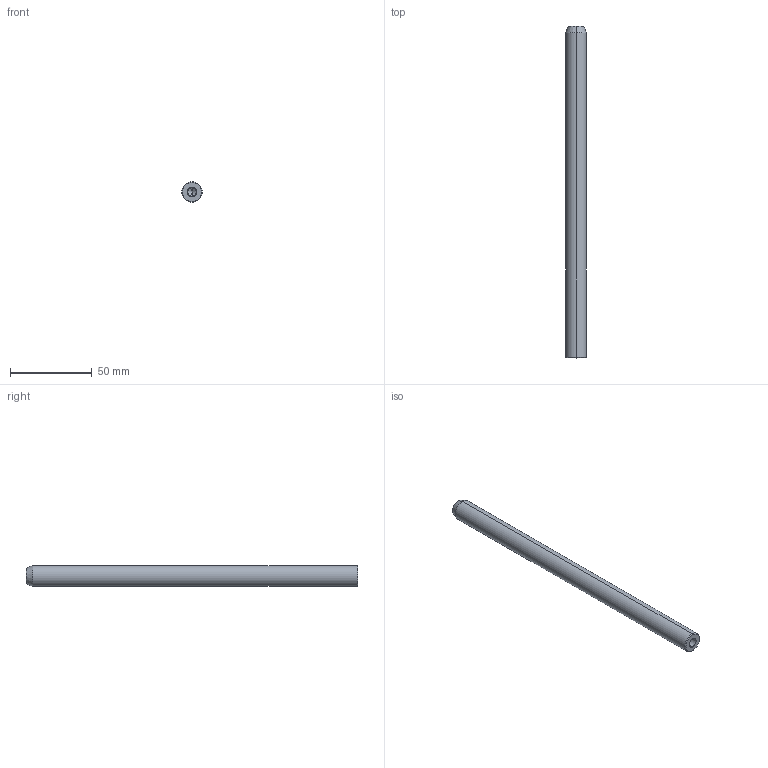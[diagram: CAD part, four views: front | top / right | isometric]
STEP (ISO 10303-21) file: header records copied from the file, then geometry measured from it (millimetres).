
FILE_DESCRIPTION (( 'STEP AP203' ), '1' );
FILE_NAME ('(STEP)M-PD-8.STEP', '2020-03-31T03:42:59', ( '' ), ( '' ), 'SwSTEP 2.0', 'SolidWorks 2019', '' );
FILE_SCHEMA (( 'CONFIG_CONTROL_DESIGN' ));
Length unit declared in the file: millimetre
Products named in the file (1): (STEP)M-PD-8
Bounding box: 12.7 x 203.2 x 12.7 mm (x, y, z)
Volume: 25234.2 mm3; surface area: 8588.3 mm2
Topology: 1 solids, 1 shells, 21 faces, 44 edges, 24 vertices
Faces by surface type: cone 8, cylinder 8, plane 3, torus 2
Entity records: 611 total; most frequent: DIRECTION 108, CARTESIAN_POINT 86, ORIENTED_EDGE 80, AXIS2_PLACEMENT_3D 46, EDGE_CURVE 40, VERTEX_POINT 24, CIRCLE 24, EDGE_LOOP 24
